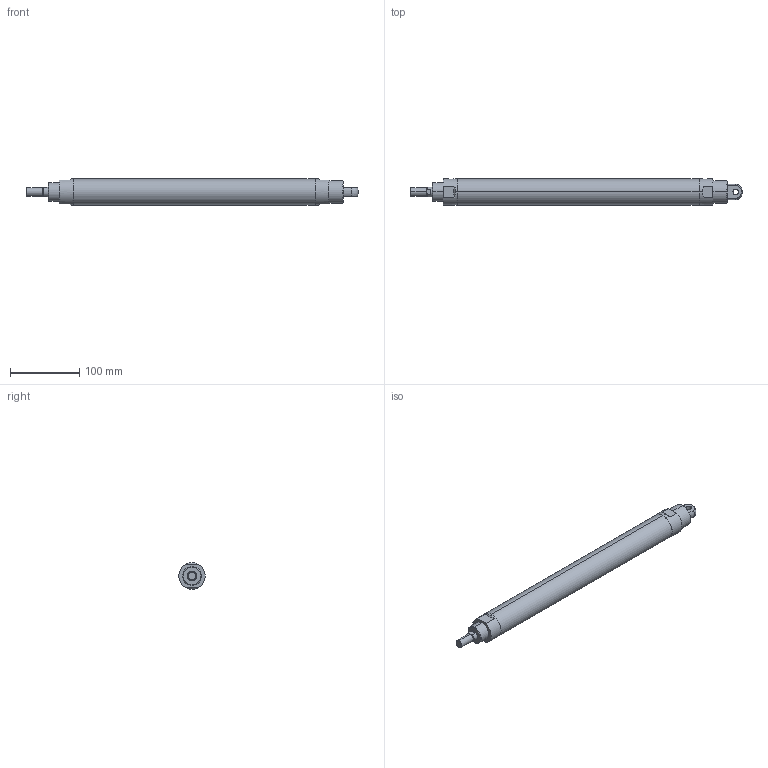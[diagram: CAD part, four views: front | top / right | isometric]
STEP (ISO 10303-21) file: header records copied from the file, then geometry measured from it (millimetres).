
FILE_DESCRIPTION (( 'STEP AP203' ), '1' );
FILE_NAME ('J#2-32-300-C.STEP', '2016-03-08T07:51:35', ( '' ), ( '' ), 'SwSTEP 2.0', 'SolidWorks 2014', '' );
FILE_SCHEMA (( 'CONFIG_CONTROL_DESIGN' ));
Length unit declared in the file: millimetre
Products named in the file (1): J#2-32-300-C
Bounding box: 479 x 38 x 38 mm (x, y, z)
Volume: 463800.8 mm3; surface area: 55399.1 mm2
Topology: 1 solids, 1 shells, 59 faces, 138 edges, 85 vertices
Faces by surface type: cylinder 22, plane 20, cone 15, torus 2
Entity records: 1996 total; most frequent: CARTESIAN_POINT 574, DIRECTION 293, ORIENTED_EDGE 268, EDGE_CURVE 134, AXIS2_PLACEMENT_3D 118, VERTEX_POINT 85, EDGE_LOOP 69, ADVANCED_FACE 59
